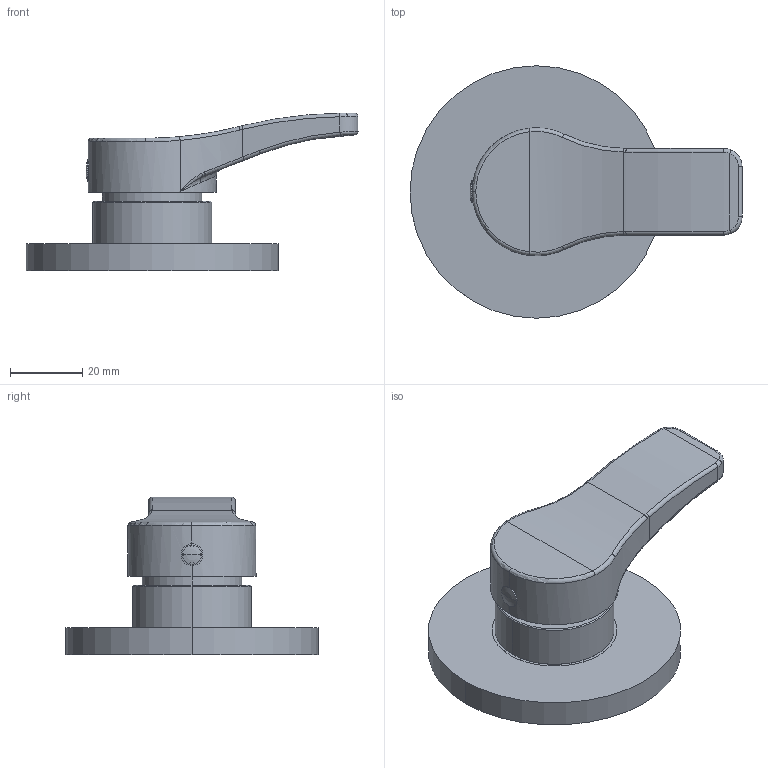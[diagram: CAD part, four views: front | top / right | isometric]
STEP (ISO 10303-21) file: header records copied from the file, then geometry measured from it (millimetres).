
FILE_DESCRIPTION((''),'2;1');
FILE_NAME('26000B490B000000_SW0001','2026-02-10T12:24:14',('Luca'),(''),'CREO PARAMETRIC BY PTC INC, 2025010','CREO PARAMETRIC BY PTC INC, 2025010','');
FILE_SCHEMA(('AUTOMOTIVE_DESIGN { 1 0 10303 214 1 1 1 1 }'));
Length unit declared in the file: millimetre
Products named in the file (1): 26000B490B000000_SW0001
Bounding box: 92.07 x 70 x 43.74 mm (x, y, z)
Volume: 47184.5 mm3; surface area: 23456.1 mm2
Topology: 2 solids, 2 shells, 168 faces, 396 edges, 238 vertices
Faces by surface type: cylinder 63, plane 36, torus 28, bspline 23, cone 16, sphere 2
Entity records: 9079 total; most frequent: CARTESIAN_POINT 4179, ORIENTED_EDGE 784, DIRECTION 697, EDGE_CURVE 392, AXIS2_PLACEMENT_3D 288, VERTEX_POINT 238, EDGE_LOOP 188, FACE_OUTER_BOUND 168
